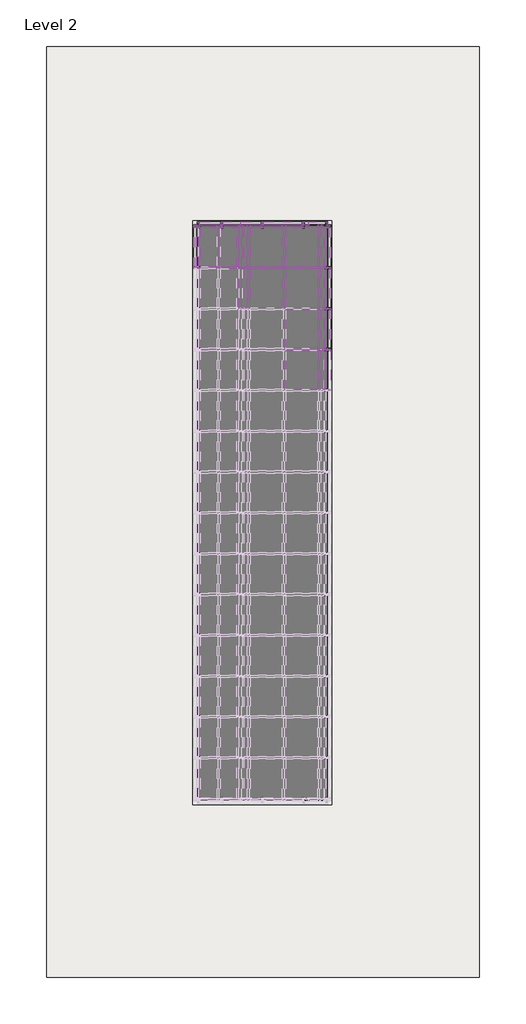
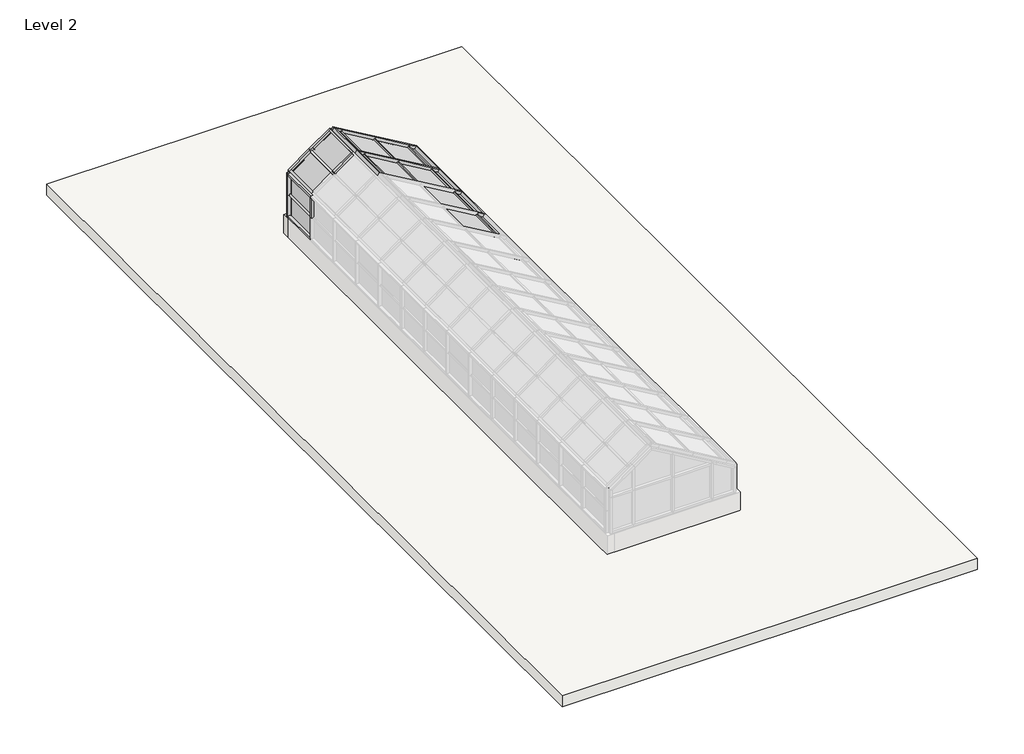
# One storey, part 5 of 5: 65 members, 28 plates, 1 proxy, 1 roof, 1 wall.
"""IFC4 building model written with IfcOpenShell, lengths in millimetres."""

from ifc_helpers import new_model, si_unit, frame, origin, place, context, project, spatial, polyline, outline, extrude, faceted_brep, transform, mapped, element, save
from components import rectangular_mullion_50mm_x_150mm_a053b0ca, rectangular_mullion_50mm_x_150mm_32254d86, rectangular_mullion_50mm_x_150mm_d223150d, rectangular_mullion_50mm_x_150mm_8a69f4a4, rectangular_mullion_50mm_x_150mm_bbc1c4ea, rectangular_mullion_50mm_x_150mm_fae529a7, rectangular_mullion_50mm_x_150mm_eeb88b28, rectangular_mullion_50mm_x_150mm_10ca3b23, rectangular_mullion_50mm_x_150mm_2678c853, rectangular_mullion_50mm_x_150mm_a76007e2, rectangular_mullion_50mm_x_150mm_ad13ef8d, rectangular_mullion_50mm_x_150mm_9f3c5d86, rectangular_mullion_50mm_x_150mm_cf8f8159, rectangular_mullion_50mm_x_150mm_4f540f7b, rectangular_mullion_50mm_x_150mm_39d84e13, rectangular_mullion_50mm_x_150mm_911f9bfa, rectangular_mullion_50mm_x_150mm_74fb06e2, rectangular_mullion_50mm_x_150mm_35f7bb67, rectangular_mullion_50mm_x_150mm_fee80ca3, rectangular_mullion_50mm_x_150mm_37271eec, rectangular_mullion_50mm_x_150mm_5dbd0429, rectangular_mullion_50mm_x_150mm_457f67df, rectangular_mullion_50mm_x_150mm_a3f7cd42, rectangular_mullion_50mm_x_150mm_b93c35cb, rectangular_mullion_50mm_x_150mm_5b0837ce, rectangular_mullion_50mm_x_150mm_ae680e05, rectangular_mullion_50mm_x_65mm_20714c67, rectangular_mullion_50mm_x_65mm_31c1307f, system_panel_glazed_7648efc2, system_panel_glazed_054ac1a6, system_panel_glazed_b73f3a15, system_panel_glazed_e5572be6, system_panel_glazed_8ed7f146, system_panel_glazed_e7d87ffb, system_panel_glazed_5a163f1a, system_panel_glazed_f6ef7fd0, system_panel_glazed_bfda2260, system_panel_glazed_06c85186, system_panel_glazed_3cc83191, system_panel_glazed_1192e014, system_panel_glazed_51a322f3, system_panel_glazed_750eec45, system_panel_glazed_9b35e2bb

model = new_model("IFC4")

# Units and contexts
model_context = context("Model", 3, world=origin())
ifc_project = project(units=[si_unit("LENGTHUNIT", "METRE", prefix="MILLI")], contexts=[model_context])

# Site, building, storey
site = spatial("IfcSite", under=ifc_project)
building = spatial("IfcBuilding", under=site)
storey = spatial("IfcBuildingStorey", under=building, Name="Level 2", Elevation=4000.0)

# Proxy
placement = place(None, origin())
element("IfcBuildingElementProxy", 1, Name="Mass 2 : Mass 2", ObjectType="Mass 2 : Mass 2", at=placement, inside=storey, context=model_context, shape_type="SweptSolid", body=[
    extrude(outline(polyline([(4800.0, 4496.0159363), (5495.9168295, 4496.0159363), (6755.9168295, 2355.6300069), (5995.9168295, 1296.0159363), (4800.0, 1296.0159363), (4800.0, 4496.0159363)])), frame((0.0, -6466.183534, 0.0), z_axis=(0.0, 1.0, 0.0), x_axis=(0.0, 0.0, 1.0)), (0.0, 0.0, 1.0), 14100.0),
])

# Members
rectangular_mullion_50mm_x_150mm_shape = rectangular_mullion_50mm_x_150mm_a053b0ca(model_context)
element("IfcMember", 2, ObjectType="Rectangular Mullion : 50mm x 150mm", at=placement, inside=storey, context=model_context, shape_type="MappedRepresentation", body=[
    mapped(rectangular_mullion_50mm_x_150mm_shape, transform((1921.0159363, 7633.816466, 5777.9584148), x_axis=(0.0, 0.0, 1.0), y_axis=(0.0, 1.0, 0.0), z_axis=(-1.0, 0.0, 0.0))),
])
element("IfcMember", 3, ObjectType="Rectangular Mullion : 50mm x 150mm", at=placement, inside=storey, context=model_context, shape_type="MappedRepresentation", body=[
    mapped(rectangular_mullion_50mm_x_150mm_shape, transform((2921.0159363, 7633.816466, 5777.9584148), x_axis=(0.0, 0.0, 1.0), y_axis=(0.0, 1.0, 0.0), z_axis=(-1.0, 0.0, 0.0))),
])
rectangular_mullion_50mm_x_150mm_2_shape = rectangular_mullion_50mm_x_150mm_32254d86(model_context)
element("IfcMember", 4, ObjectType="Rectangular Mullion : 50mm x 150mm", at=placement, inside=storey, context=model_context, shape_type="MappedRepresentation", body=[
    mapped(rectangular_mullion_50mm_x_150mm_2_shape, transform((1825.8229716, 7633.816466, 6375.9168295), x_axis=(0.0, 1.0, 0.0), y_axis=(-0.5828279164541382, 0.0, 0.8125956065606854), z_axis=(0.8125956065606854, 0.0, 0.5828279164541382))),
])
element("IfcMember", 5, ObjectType="Rectangular Mullion : 50mm x 150mm", at=placement, inside=storey, context=model_context, shape_type="MappedRepresentation", body=[
    mapped(rectangular_mullion_50mm_x_150mm_2_shape, transform((2355.6300069, 7633.816466, 6755.9168295), x_axis=(0.0, 1.0, 0.0), y_axis=(-0.5828279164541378, 0.0, 0.8125956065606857), z_axis=(0.8125956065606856, 0.0, 0.5828279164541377))),
])
rectangular_mullion_50mm_x_150mm_3_shape = rectangular_mullion_50mm_x_150mm_d223150d(model_context)
element("IfcMember", 6, ObjectType="Rectangular Mullion : 50mm x 150mm", at=placement, inside=storey, context=model_context, shape_type="MappedRepresentation", body=[
    mapped(rectangular_mullion_50mm_x_150mm_3_shape, transform((1296.0159363, 7633.816466, 5397.9584148), x_axis=(0.0, 1.0, 0.0), y_axis=(-1.0, 0.0, 0.0), z_axis=(0.0, 0.0, 1.0))),
])
element("IfcMember", 7, ObjectType="Rectangular Mullion : 50mm x 150mm", at=placement, inside=storey, context=model_context, shape_type="MappedRepresentation", body=[
    mapped(rectangular_mullion_50mm_x_150mm_3_shape, transform((1296.0159363, 7633.816466, 5995.9168295), x_axis=(0.0, 1.0, 0.0), y_axis=(-1.0, 0.0, 0.0), z_axis=(0.0, 0.0, 1.0))),
])
rectangular_mullion_50mm_x_150mm_4_shape = rectangular_mullion_50mm_x_150mm_8a69f4a4(model_context)
element("IfcMember", 8, ObjectType="Rectangular Mullion : 50mm x 150mm", at=placement, inside=storey, context=model_context, shape_type="MappedRepresentation", body=[
    mapped(rectangular_mullion_50mm_x_150mm_4_shape, transform((1346.0159363, 7633.816466, 5777.9584148), x_axis=(0.0, 0.0, 1.0), y_axis=(0.0, 1.0, 0.0), z_axis=(-1.0, 0.0, 0.0))),
])
rectangular_mullion_50mm_x_150mm_5_shape = rectangular_mullion_50mm_x_150mm_bbc1c4ea(model_context)
element("IfcMember", 9, ObjectType="Rectangular Mullion : 50mm x 150mm", at=placement, inside=storey, context=model_context, shape_type="MappedRepresentation", body=[
    mapped(rectangular_mullion_50mm_x_150mm_5_shape, transform((2564.0558626, 6583.816466, 6633.2209294), x_axis=(0.0, -1.0, 0.0), y_axis=(0.5073040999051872, 0.0, 0.8617671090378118), z_axis=(-0.8617671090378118, 0.0, 0.5073040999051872))),
])
element("IfcMember", 10, ObjectType="Rectangular Mullion : 50mm x 150mm", at=placement, inside=storey, context=model_context, shape_type="MappedRepresentation", body=[
    mapped(rectangular_mullion_50mm_x_150mm_5_shape, transform((3425.8229716, 6583.816466, 6125.9168295), x_axis=(0.0, -1.0, 0.0), y_axis=(0.5073040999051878, 0.0, 0.8617671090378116), z_axis=(-0.8617671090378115, 0.0, 0.5073040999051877))),
])
rectangular_mullion_50mm_x_150mm_6_shape = rectangular_mullion_50mm_x_150mm_fae529a7(model_context)
element("IfcMember", 11, ObjectType="Rectangular Mullion : 50mm x 150mm", at=placement, inside=storey, context=model_context, shape_type="MappedRepresentation", body=[
    mapped(rectangular_mullion_50mm_x_150mm_6_shape, transform((2564.0558626, 7633.816466, 6633.2209294), x_axis=(0.0, 1.0, 0.0), y_axis=(0.5073040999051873, 0.0, 0.8617671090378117), z_axis=(0.8617671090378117, 0.0, -0.5073040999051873))),
])
rectangular_mullion_50mm_x_150mm_7_shape = rectangular_mullion_50mm_x_150mm_eeb88b28(model_context)
element("IfcMember", 12, ObjectType="Rectangular Mullion : 50mm x 150mm", at=placement, inside=storey, context=model_context, shape_type="MappedRepresentation", body=[
    mapped(rectangular_mullion_50mm_x_150mm_7_shape, transform((4287.5900806, 7633.816466, 5618.6127296), x_axis=(0.0, 1.0, 0.0), y_axis=(0.5073040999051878, 0.0, 0.8617671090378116), z_axis=(0.8617671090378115, 0.0, -0.5073040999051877))),
])
element("IfcMember", 13, ObjectType="Rectangular Mullion : 50mm x 150mm", at=placement, inside=storey, context=model_context, shape_type="MappedRepresentation", body=[
    mapped(rectangular_mullion_50mm_x_150mm_7_shape, transform((3425.8229716, 7633.816466, 6125.9168295), x_axis=(0.0, 1.0, 0.0), y_axis=(0.507304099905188, 0.0, 0.8617671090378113), z_axis=(0.8617671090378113, 0.0, -0.507304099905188))),
])
element("IfcMember", 14, ObjectType="Rectangular Mullion : 50mm x 150mm", at=placement, inside=storey, context=model_context, shape_type="MappedRepresentation", body=[
    mapped(rectangular_mullion_50mm_x_150mm_6_shape, transform((4496.0159363, 7633.816466, 5495.9168295), x_axis=(0.0, 1.0, 0.0), y_axis=(0.5073040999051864, 0.0, 0.8617671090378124), z_axis=(0.8617671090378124, 0.0, -0.5073040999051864))),
])
rectangular_mullion_50mm_x_150mm_8_shape = rectangular_mullion_50mm_x_150mm_10ca3b23(model_context)
element("IfcMember", 15, ObjectType="Rectangular Mullion : 50mm x 150mm", at=placement, inside=storey, context=model_context, shape_type="MappedRepresentation", body=[
    mapped(rectangular_mullion_50mm_x_150mm_8_shape, transform((4496.0159363, 7633.816466, 4800.0), x_axis=(0.0, 1.0, 0.0), y_axis=(1.0, 0.0, 0.0), z_axis=(0.0, 0.0, -1.0))),
])
rectangular_mullion_50mm_x_150mm_9_shape = rectangular_mullion_50mm_x_150mm_2678c853(model_context)
element("IfcMember", 16, ObjectType="Rectangular Mullion : 50mm x 150mm", at=placement, inside=storey, context=model_context, shape_type="MappedRepresentation", body=[
    mapped(rectangular_mullion_50mm_x_150mm_9_shape, transform((1896.0159363, 7633.816466, 6426.2621908), x_axis=(1.0, 0.0, 0.0), y_axis=(0.0, 1.0, 0.0), z_axis=(0.0, 0.0, 1.0))),
])
rectangular_mullion_50mm_x_150mm_10_shape = rectangular_mullion_50mm_x_150mm_a76007e2(model_context)
element("IfcMember", 17, ObjectType="Rectangular Mullion : 50mm x 150mm", at=placement, inside=storey, context=model_context, shape_type="MappedRepresentation", body=[
    mapped(rectangular_mullion_50mm_x_150mm_10_shape, transform((2896.0159363, 7633.816466, 6437.8030437), x_axis=(1.0, 0.0, 0.0), y_axis=(0.0, 1.0, 0.0), z_axis=(0.0, 0.0, 1.0))),
])
rectangular_mullion_50mm_x_150mm_11_shape = rectangular_mullion_50mm_x_150mm_ad13ef8d(model_context)
element("IfcMember", 18, ObjectType="Rectangular Mullion : 50mm x 150mm", at=placement, inside=storey, context=model_context, shape_type="MappedRepresentation", body=[
    mapped(rectangular_mullion_50mm_x_150mm_11_shape, transform((4016.906539, 7633.816466, 5777.9584148), x_axis=(0.507304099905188, 0.0, 0.8617671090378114), y_axis=(0.0, 1.0, 0.0), z_axis=(-0.8617671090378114, 0.0, 0.507304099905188))),
])
rectangular_mullion_50mm_x_150mm_12_shape = rectangular_mullion_50mm_x_150mm_9f3c5d86(model_context)
element("IfcMember", 19, ObjectType="Rectangular Mullion : 50mm x 150mm", at=placement, inside=storey, context=model_context, shape_type="MappedRepresentation", body=[
    mapped(rectangular_mullion_50mm_x_150mm_12_shape, transform((3896.0159363, 7633.816466, 5849.1241598), x_axis=(0.5073040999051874, 0.0, 0.8617671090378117), y_axis=(0.0, 1.0, 0.0), z_axis=(-0.8617671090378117, 0.0, 0.5073040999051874))),
])
rectangular_mullion_50mm_x_150mm_13_shape = rectangular_mullion_50mm_x_150mm_cf8f8159(model_context)
element("IfcMember", 20, ObjectType="Rectangular Mullion : 50mm x 150mm", at=placement, inside=storey, context=model_context, shape_type="MappedRepresentation", body=[
    mapped(rectangular_mullion_50mm_x_150mm_13_shape, transform((2896.0159363, 7633.816466, 6437.8030437), x_axis=(0.5073040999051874, 0.0, 0.8617671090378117), y_axis=(0.0, 1.0, 0.0), z_axis=(-0.8617671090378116, 0.0, 0.5073040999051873))),
])
rectangular_mullion_50mm_x_150mm_14_shape = rectangular_mullion_50mm_x_150mm_4f540f7b(model_context)
element("IfcMember", 21, ObjectType="Rectangular Mullion : 50mm x 150mm", at=placement, inside=storey, context=model_context, shape_type="MappedRepresentation", body=[
    mapped(rectangular_mullion_50mm_x_150mm_14_shape, transform((1896.0159363, 7633.816466, 6426.2621908), x_axis=(-0.5828279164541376, 0.0, 0.8125956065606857), y_axis=(0.0, 1.0, 0.0), z_axis=(-0.8125956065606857, 0.0, -0.5828279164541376))),
])
rectangular_mullion_50mm_x_150mm_15_shape = rectangular_mullion_50mm_x_150mm_39d84e13(model_context)
element("IfcMember", 22, ObjectType="Rectangular Mullion : 50mm x 150mm", at=placement, inside=storey, context=model_context, shape_type="MappedRepresentation", body=[
    mapped(rectangular_mullion_50mm_x_150mm_15_shape, transform((1296.0159363, 7633.816466, 5777.9584148), x_axis=(-1.0, 0.0, 0.0), y_axis=(0.0, 1.0, 0.0), z_axis=(0.0, 0.0, -1.0))),
])
rectangular_mullion_50mm_x_150mm_16_shape = rectangular_mullion_50mm_x_150mm_911f9bfa(model_context)
element("IfcMember", 23, ObjectType="Rectangular Mullion : 50mm x 150mm", at=placement, inside=storey, context=model_context, shape_type="MappedRepresentation", body=[
    mapped(rectangular_mullion_50mm_x_150mm_16_shape, transform((2355.6300069, 7633.816466, 6755.9168295), x_axis=(0.507304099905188, 0.0, 0.8617671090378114), y_axis=(0.0, 1.0, 0.0), z_axis=(-0.8617671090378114, 0.0, 0.507304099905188))),
])
rectangular_mullion_50mm_x_150mm_17_shape = rectangular_mullion_50mm_x_150mm_74fb06e2(model_context)
element("IfcMember", 24, ObjectType="Rectangular Mullion : 50mm x 150mm", at=placement, inside=storey, context=model_context, shape_type="MappedRepresentation", body=[
    mapped(rectangular_mullion_50mm_x_150mm_17_shape, transform((1296.0159363, 7633.816466, 5995.9168295), x_axis=(-0.5828279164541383, 0.0, 0.8125956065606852), y_axis=(0.0, 1.0, 0.0), z_axis=(-0.8125956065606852, 0.0, -0.5828279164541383))),
])
rectangular_mullion_50mm_x_150mm_18_shape = rectangular_mullion_50mm_x_150mm_35f7bb67(model_context)
element("IfcMember", 25, ObjectType="Rectangular Mullion : 50mm x 150mm", at=placement, inside=storey, context=model_context, shape_type="MappedRepresentation", body=[
    mapped(rectangular_mullion_50mm_x_150mm_18_shape, transform((1296.0159363, 7633.816466, 4800.0), x_axis=(-1.0, 0.0, 0.0), y_axis=(0.0, 1.0, 0.0), z_axis=(0.0, 0.0, -1.0))),
])
rectangular_mullion_50mm_x_150mm_19_shape = rectangular_mullion_50mm_x_150mm_fee80ca3(model_context)
element("IfcMember", 26, ObjectType="Rectangular Mullion : 50mm x 150mm", at=placement, inside=storey, context=model_context, shape_type="MappedRepresentation", body=[
    mapped(rectangular_mullion_50mm_x_150mm_19_shape, transform((4496.0159363, 7633.816466, 5495.9168295), x_axis=(1.0, 0.0, 0.0), y_axis=(0.0, 1.0, 0.0), z_axis=(0.0, 0.0, 1.0))),
])
element("IfcMember", 27, ObjectType="Rectangular Mullion : 50mm x 150mm", at=placement, inside=storey, context=model_context, shape_type="MappedRepresentation", body=[
    mapped(rectangular_mullion_50mm_x_150mm_7_shape, transform((4496.0159363, 5583.816466, 5495.9168295), x_axis=(0.8617671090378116, 0.0, -0.5073040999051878), y_axis=(0.5073040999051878, 0.0, 0.8617671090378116), z_axis=(0.0, -1.0, 0.0))),
])
element("IfcMember", 28, ObjectType="Rectangular Mullion : 50mm x 150mm", at=placement, inside=storey, context=model_context, shape_type="MappedRepresentation", body=[
    mapped(rectangular_mullion_50mm_x_150mm_7_shape, transform((4496.0159363, 4583.816466, 5495.9168295), x_axis=(0.8617671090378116, 0.0, -0.5073040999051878), y_axis=(0.5073040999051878, 0.0, 0.8617671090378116), z_axis=(0.0, -1.0, 0.0))),
])
element("IfcMember", 29, ObjectType="Rectangular Mullion : 50mm x 150mm", at=placement, inside=storey, context=model_context, shape_type="MappedRepresentation", body=[
    mapped(rectangular_mullion_50mm_x_150mm_7_shape, transform((4496.0159363, 4583.816466, 4800.0), x_axis=(0.0, 0.0, -1.0), y_axis=(1.0, 0.0, 0.0), z_axis=(0.0, -1.0, 0.0))),
])
element("IfcMember", 30, ObjectType="Rectangular Mullion : 50mm x 150mm", at=placement, inside=storey, context=model_context, shape_type="MappedRepresentation", body=[
    mapped(rectangular_mullion_50mm_x_150mm_7_shape, transform((4496.0159363, 5583.816466, 4800.0), x_axis=(0.0, 0.0, -1.0), y_axis=(1.0, 0.0, 0.0), z_axis=(0.0, -1.0, 0.0))),
])
element("IfcMember", 31, ObjectType="Rectangular Mullion : 50mm x 150mm", at=placement, inside=storey, context=model_context, shape_type="MappedRepresentation", body=[
    mapped(rectangular_mullion_50mm_x_150mm_7_shape, transform((3896.0159363, 7633.816466, 4800.0), x_axis=(0.0, 0.0, -1.0), y_axis=(0.0, 1.0, 0.0), z_axis=(1.0, 0.0, 0.0))),
])
element("IfcMember", 32, ObjectType="Rectangular Mullion : 50mm x 150mm", at=placement, inside=storey, context=model_context, shape_type="MappedRepresentation", body=[
    mapped(rectangular_mullion_50mm_x_150mm_7_shape, transform((2896.0159363, 7633.816466, 4800.0), x_axis=(0.0, 0.0, -1.0), y_axis=(0.0, 1.0, 0.0), z_axis=(1.0, 0.0, 0.0))),
])
rectangular_mullion_50mm_x_150mm_20_shape = rectangular_mullion_50mm_x_150mm_37271eec(model_context)
element("IfcMember", 33, ObjectType="Rectangular Mullion : 50mm x 150mm", at=placement, inside=storey, context=model_context, shape_type="MappedRepresentation", body=[
    mapped(rectangular_mullion_50mm_x_150mm_20_shape, transform((3896.0159363, 7633.816466, 5802.9584148), x_axis=(1.0, 0.0, 0.0), y_axis=(0.0, 1.0, 0.0), z_axis=(0.0, 0.0, 1.0))),
])
rectangular_mullion_50mm_x_150mm_21_shape = rectangular_mullion_50mm_x_150mm_5dbd0429(model_context)
element("IfcMember", 34, ObjectType="Rectangular Mullion : 50mm x 150mm", at=placement, inside=storey, context=model_context, shape_type="MappedRepresentation", body=[
    mapped(rectangular_mullion_50mm_x_150mm_21_shape, transform((1896.0159363, 7633.816466, 4800.0), x_axis=(0.0, 0.0, -1.0), y_axis=(0.0, 1.0, 0.0), z_axis=(1.0, 0.0, 0.0))),
])
rectangular_mullion_50mm_x_150mm_22_shape = rectangular_mullion_50mm_x_150mm_457f67df(model_context)
element("IfcMember", 35, ObjectType="Rectangular Mullion : 50mm x 150mm", at=placement, inside=storey, context=model_context, shape_type="MappedRepresentation", body=[
    mapped(rectangular_mullion_50mm_x_150mm_22_shape, transform((2896.0159363, 7633.816466, 5777.9584148), x_axis=(1.0, 0.0, 0.0), y_axis=(0.0, 1.0, 0.0), z_axis=(0.0, 0.0, 1.0))),
])
element("IfcMember", 36, ObjectType="Rectangular Mullion : 50mm x 150mm", at=placement, inside=storey, context=model_context, shape_type="MappedRepresentation", body=[
    mapped(rectangular_mullion_50mm_x_150mm_22_shape, transform((1896.0159363, 7633.816466, 5777.9584148), x_axis=(1.0, 0.0, 0.0), y_axis=(0.0, 1.0, 0.0), z_axis=(0.0, 0.0, 1.0))),
])
element("IfcMember", 37, ObjectType="Rectangular Mullion : 50mm x 150mm", at=placement, inside=storey, context=model_context, shape_type="MappedRepresentation", body=[
    mapped(rectangular_mullion_50mm_x_150mm_21_shape, transform((4446.0159363, 7633.816466, 4800.0), x_axis=(0.0, 0.0, -1.0), y_axis=(0.0, 1.0, 0.0), z_axis=(1.0, 0.0, 0.0))),
])
element("IfcMember", 38, ObjectType="Rectangular Mullion : 50mm x 150mm", at=placement, inside=storey, context=model_context, shape_type="MappedRepresentation", body=[
    mapped(rectangular_mullion_50mm_x_150mm_7_shape, transform((2355.6300069, 6583.816466, 6755.9168295), x_axis=(-0.8617671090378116, 0.0, 0.5073040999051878), y_axis=(0.5073040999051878, 0.0, 0.8617671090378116), z_axis=(0.0, 1.0, 0.0))),
])
element("IfcMember", 39, ObjectType="Rectangular Mullion : 50mm x 150mm", at=placement, inside=storey, context=model_context, shape_type="MappedRepresentation", body=[
    mapped(rectangular_mullion_50mm_x_150mm_7_shape, transform((4496.0159363, 4583.816466, 5495.9168295), x_axis=(0.0, 0.0, 1.0), y_axis=(1.0, 0.0, 0.0), z_axis=(0.0, 1.0, 0.0))),
])
element("IfcMember", 40, ObjectType="Rectangular Mullion : 50mm x 150mm", at=placement, inside=storey, context=model_context, shape_type="MappedRepresentation", body=[
    mapped(rectangular_mullion_50mm_x_150mm_7_shape, transform((4496.0159363, 5583.816466, 5495.9168295), x_axis=(0.0, 0.0, 1.0), y_axis=(1.0, 0.0, 0.0), z_axis=(0.0, 1.0, 0.0))),
])
element("IfcMember", 41, ObjectType="Rectangular Mullion : 50mm x 150mm", at=placement, inside=storey, context=model_context, shape_type="MappedRepresentation", body=[
    mapped(rectangular_mullion_50mm_x_150mm_7_shape, transform((4496.0159363, 6583.816466, 5495.9168295), x_axis=(0.0, 0.0, 1.0), y_axis=(1.0, 0.0, 0.0), z_axis=(0.0, 1.0, 0.0))),
])
rectangular_mullion_50mm_x_150mm_23_shape = rectangular_mullion_50mm_x_150mm_a3f7cd42(model_context)
element("IfcMember", 42, ObjectType="Rectangular Mullion : 50mm x 150mm", at=placement, inside=storey, context=model_context, shape_type="MappedRepresentation", body=[
    mapped(rectangular_mullion_50mm_x_150mm_23_shape, transform((2315.0002265, 6583.816466, 6726.7754337), x_axis=(0.0, 1.0, 0.0), y_axis=(-0.5828279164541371, 0.0, 0.8125956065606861), z_axis=(0.8125956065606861, 0.0, 0.5828279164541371))),
])
rectangular_mullion_50mm_x_150mm_24_shape = rectangular_mullion_50mm_x_150mm_b93c35cb(model_context)
element("IfcMember", 43, ObjectType="Rectangular Mullion : 50mm x 150mm", at=placement, inside=storey, context=model_context, shape_type="MappedRepresentation", body=[
    mapped(rectangular_mullion_50mm_x_150mm_24_shape, transform((1296.0159363, 6583.816466, 5945.9168295), x_axis=(0.0, 1.0, 0.0), y_axis=(-1.0, 0.0, 0.0), z_axis=(0.0, 0.0, 1.0))),
])
rectangular_mullion_50mm_x_150mm_25_shape = rectangular_mullion_50mm_x_150mm_5b0837ce(model_context)
element("IfcMember", 44, ObjectType="Rectangular Mullion : 50mm x 150mm", at=placement, inside=storey, context=model_context, shape_type="MappedRepresentation", body=[
    mapped(rectangular_mullion_50mm_x_150mm_25_shape, transform((2398.7183623, 6583.816466, 6730.5516245), x_axis=(0.0, -1.0, 0.0), y_axis=(0.5073040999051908, 0.0, 0.8617671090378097), z_axis=(-0.8617671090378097, 0.0, 0.5073040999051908))),
])
element("IfcMember", 45, ObjectType="Rectangular Mullion : 50mm x 150mm", at=placement, inside=storey, context=model_context, shape_type="MappedRepresentation", body=[
    mapped(rectangular_mullion_50mm_x_150mm_25_shape, transform((4287.5900806, 6583.816466, 5618.6127296), x_axis=(0.0, -1.0, 0.0), y_axis=(0.5073040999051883, 0.0, 0.8617671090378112), z_axis=(-0.8617671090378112, 0.0, 0.5073040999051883))),
])
element("IfcMember", 46, ObjectType="Rectangular Mullion : 50mm x 150mm", at=placement, inside=storey, context=model_context, shape_type="MappedRepresentation", body=[
    mapped(rectangular_mullion_50mm_x_150mm_25_shape, transform((4287.5900806, 4583.816466, 5618.6127296), x_axis=(0.0, -1.0, 0.0), y_axis=(0.5073040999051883, 0.0, 0.8617671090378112), z_axis=(-0.8617671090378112, 0.0, 0.5073040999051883))),
])
element("IfcMember", 47, ObjectType="Rectangular Mullion : 50mm x 150mm", at=placement, inside=storey, context=model_context, shape_type="MappedRepresentation", body=[
    mapped(rectangular_mullion_50mm_x_150mm_25_shape, transform((4287.5900806, 5583.816466, 5618.6127296), x_axis=(0.0, -1.0, 0.0), y_axis=(0.5073040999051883, 0.0, 0.8617671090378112), z_axis=(-0.8617671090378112, 0.0, 0.5073040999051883))),
])
rectangular_mullion_50mm_x_150mm_26_shape = rectangular_mullion_50mm_x_150mm_ae680e05(model_context)
element("IfcMember", 48, ObjectType="Rectangular Mullion : 50mm x 150mm", at=placement, inside=storey, context=model_context, shape_type="MappedRepresentation", body=[
    mapped(rectangular_mullion_50mm_x_150mm_26_shape, transform((4496.0159363, 6583.816466, 5445.9168295), x_axis=(0.0, -1.0, 0.0), y_axis=(1.0, 0.0, 0.0), z_axis=(0.0, 0.0, 1.0))),
])
element("IfcMember", 49, ObjectType="Rectangular Mullion : 50mm x 150mm", at=placement, inside=storey, context=model_context, shape_type="MappedRepresentation", body=[
    mapped(rectangular_mullion_50mm_x_150mm_26_shape, transform((4496.0159363, 5583.816466, 5445.9168295), x_axis=(0.0, -1.0, 0.0), y_axis=(1.0, 0.0, 0.0), z_axis=(0.0, 0.0, 1.0))),
])
element("IfcMember", 50, ObjectType="Rectangular Mullion : 50mm x 150mm", at=placement, inside=storey, context=model_context, shape_type="MappedRepresentation", body=[
    mapped(rectangular_mullion_50mm_x_150mm_26_shape, transform((4496.0159363, 4583.816466, 5445.9168295), x_axis=(0.0, -1.0, 0.0), y_axis=(1.0, 0.0, 0.0), z_axis=(0.0, 0.0, 1.0))),
])
element("IfcMember", 51, ObjectType="Rectangular Mullion : 50mm x 150mm", at=placement, inside=storey, context=model_context, shape_type="MappedRepresentation", body=[
    mapped(rectangular_mullion_50mm_x_150mm_7_shape, transform((4496.0159363, 6583.816466, 5495.9168295), x_axis=(0.8617671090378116, 0.0, -0.5073040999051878), y_axis=(0.5073040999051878, 0.0, 0.8617671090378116), z_axis=(0.0, -1.0, 0.0))),
])
element("IfcMember", 52, ObjectType="Rectangular Mullion : 50mm x 150mm", at=placement, inside=storey, context=model_context, shape_type="MappedRepresentation", body=[
    mapped(rectangular_mullion_50mm_x_150mm_7_shape, transform((4496.0159363, 6583.816466, 4800.0), x_axis=(0.0, 0.0, -1.0), y_axis=(1.0, 0.0, 0.0), z_axis=(0.0, -1.0, 0.0))),
])
element("IfcMember", 53, ObjectType="Rectangular Mullion : 50mm x 150mm", at=placement, inside=storey, context=model_context, shape_type="MappedRepresentation", body=[
    mapped(rectangular_mullion_50mm_x_150mm_7_shape, transform((2355.6300069, 7583.816466, 6755.9168295), x_axis=(-0.8617671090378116, 0.0, 0.5073040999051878), y_axis=(0.5073040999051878, 0.0, 0.8617671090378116), z_axis=(0.0, 1.0, 0.0))),
])
element("IfcMember", 54, ObjectType="Rectangular Mullion : 50mm x 150mm", at=placement, inside=storey, context=model_context, shape_type="MappedRepresentation", body=[
    mapped(rectangular_mullion_50mm_x_150mm_7_shape, transform((4496.0159363, 7583.816466, 5495.9168295), x_axis=(0.0, 0.0, 1.0), y_axis=(1.0, 0.0, 0.0), z_axis=(0.0, 1.0, 0.0))),
])
element("IfcMember", 55, ObjectType="Rectangular Mullion : 50mm x 150mm", at=placement, inside=storey, context=model_context, shape_type="MappedRepresentation", body=[
    mapped(rectangular_mullion_50mm_x_150mm_7_shape, transform((2355.6300069, 6583.816466, 6755.9168295), x_axis=(0.8125956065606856, 0.0, 0.5828279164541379), y_axis=(-0.5828279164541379, 0.0, 0.8125956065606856), z_axis=(0.0, -1.0, 0.0))),
])
element("IfcMember", 56, ObjectType="Rectangular Mullion : 50mm x 150mm", at=placement, inside=storey, context=model_context, shape_type="MappedRepresentation", body=[
    mapped(rectangular_mullion_50mm_x_150mm_7_shape, transform((1296.0159363, 6583.816466, 5995.9168295), x_axis=(0.0, 0.0, 1.0), y_axis=(-1.0, 0.0, 0.0), z_axis=(0.0, -1.0, 0.0))),
])
element("IfcMember", 57, ObjectType="Rectangular Mullion : 50mm x 150mm", at=placement, inside=storey, context=model_context, shape_type="MappedRepresentation", body=[
    mapped(rectangular_mullion_50mm_x_150mm_7_shape, transform((1296.0159363, 7583.816466, 5995.9168295), x_axis=(-0.8125956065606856, 0.0, -0.5828279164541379), y_axis=(-0.5828279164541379, 0.0, 0.8125956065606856), z_axis=(0.0, 1.0, 0.0))),
])
element("IfcMember", 58, ObjectType="Rectangular Mullion : 50mm x 150mm", at=placement, inside=storey, context=model_context, shape_type="MappedRepresentation", body=[
    mapped(rectangular_mullion_50mm_x_150mm_7_shape, transform((1296.0159363, 7583.816466, 4800.0), x_axis=(0.0, 0.0, -1.0), y_axis=(-1.0, 0.0, 0.0), z_axis=(0.0, 1.0, 0.0))),
])
rectangular_mullion_50mm_x_65mm_shape = rectangular_mullion_50mm_x_65mm_20714c67(model_context)
element("IfcMember", 59, ObjectType="Rectangular Mullion : 50mm x 65mm", at=placement, inside=storey, context=model_context, shape_type="MappedRepresentation", body=[
    mapped(rectangular_mullion_50mm_x_65mm_shape, transform((2564.0558626, 7583.816466, 6633.2209294), x_axis=(-0.8617671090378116, 0.0, 0.5073040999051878), y_axis=(0.5073040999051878, 0.0, 0.8617671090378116), z_axis=(0.0, 1.0, 0.0))),
])
element("IfcMember", 60, ObjectType="Rectangular Mullion : 50mm x 65mm", at=placement, inside=storey, context=model_context, shape_type="MappedRepresentation", body=[
    mapped(rectangular_mullion_50mm_x_65mm_shape, transform((3425.8229716, 7583.816466, 6125.9168295), x_axis=(-0.8617671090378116, 0.0, 0.5073040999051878), y_axis=(0.5073040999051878, 0.0, 0.8617671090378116), z_axis=(0.0, 1.0, 0.0))),
])
element("IfcMember", 61, ObjectType="Rectangular Mullion : 50mm x 65mm", at=placement, inside=storey, context=model_context, shape_type="MappedRepresentation", body=[
    mapped(rectangular_mullion_50mm_x_65mm_shape, transform((4287.5900806, 7583.816466, 5618.6127296), x_axis=(-0.8617671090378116, 0.0, 0.5073040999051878), y_axis=(0.5073040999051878, 0.0, 0.8617671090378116), z_axis=(0.0, 1.0, 0.0))),
])
rectangular_mullion_50mm_x_65mm_2_shape = rectangular_mullion_50mm_x_65mm_31c1307f(model_context)
element("IfcMember", 62, ObjectType="Rectangular Mullion : 50mm x 65mm", at=placement, inside=storey, context=model_context, shape_type="MappedRepresentation", body=[
    mapped(rectangular_mullion_50mm_x_65mm_2_shape, transform((2564.0558626, 6558.816466, 6633.2209294), x_axis=(-0.8617671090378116, 0.0, 0.5073040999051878), y_axis=(0.5073040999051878, 0.0, 0.8617671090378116), z_axis=(0.0, 1.0, 0.0))),
])
element("IfcMember", 63, ObjectType="Rectangular Mullion : 50mm x 65mm", at=placement, inside=storey, context=model_context, shape_type="MappedRepresentation", body=[
    mapped(rectangular_mullion_50mm_x_65mm_2_shape, transform((3425.8229716, 6558.816466, 6125.9168295), x_axis=(-0.8617671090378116, 0.0, 0.5073040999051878), y_axis=(0.5073040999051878, 0.0, 0.8617671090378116), z_axis=(0.0, 1.0, 0.0))),
])
element("IfcMember", 64, ObjectType="Rectangular Mullion : 50mm x 65mm", at=placement, inside=storey, context=model_context, shape_type="MappedRepresentation", body=[
    mapped(rectangular_mullion_50mm_x_65mm_2_shape, transform((4287.5900806, 6558.816466, 5618.6127296), x_axis=(-0.8617671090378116, 0.0, 0.5073040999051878), y_axis=(0.5073040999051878, 0.0, 0.8617671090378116), z_axis=(0.0, 1.0, 0.0))),
])
element("IfcMember", 65, ObjectType="Rectangular Mullion : 50mm x 65mm", at=placement, inside=storey, context=model_context, shape_type="MappedRepresentation", body=[
    mapped(rectangular_mullion_50mm_x_65mm_2_shape, transform((4287.5900806, 5558.816466, 5618.6127296), x_axis=(-0.8617671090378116, 0.0, 0.5073040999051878), y_axis=(0.5073040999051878, 0.0, 0.8617671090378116), z_axis=(0.0, 1.0, 0.0))),
])
element("IfcMember", 66, ObjectType="Rectangular Mullion : 50mm x 65mm", at=placement, inside=storey, context=model_context, shape_type="MappedRepresentation", body=[
    mapped(rectangular_mullion_50mm_x_65mm_2_shape, transform((4287.5900806, 4558.816466, 5618.6127296), x_axis=(-0.8617671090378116, 0.0, 0.5073040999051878), y_axis=(0.5073040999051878, 0.0, 0.8617671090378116), z_axis=(0.0, 1.0, 0.0))),
])

# Plates
system_panel_glazed_shape = system_panel_glazed_7648efc2(model_context)
element("IfcPlate", 67, ObjectType="System Panel : Glazed", at=placement, inside=storey, context=model_context, shape_type="MappedRepresentation", body=[
    mapped(system_panel_glazed_shape, transform((3396.0159363, 7633.816466, 4850.0), x_axis=(1.0, 0.0, 0.0), y_axis=(0.0, 1.0, 0.0), z_axis=(0.0, 0.0, 1.0))),
])
element("IfcPlate", 68, ObjectType="System Panel : Glazed", at=placement, inside=storey, context=model_context, shape_type="MappedRepresentation", body=[
    mapped(system_panel_glazed_shape, transform((2396.0159363, 7633.816466, 4850.0), x_axis=(1.0, 0.0, 0.0), y_axis=(0.0, 1.0, 0.0), z_axis=(0.0, 0.0, 1.0))),
])
system_panel_glazed_2_shape = system_panel_glazed_054ac1a6(model_context)
element("IfcPlate", 69, ObjectType="System Panel : Glazed", at=placement, inside=storey, context=model_context, shape_type="MappedRepresentation", body=[
    mapped(system_panel_glazed_2_shape, transform((1608.5159363, 7633.816466, 4850.0), x_axis=(1.0, 0.0, 0.0), y_axis=(0.0, 1.0, 0.0), z_axis=(0.0, 0.0, 1.0))),
])
system_panel_glazed_3_shape = system_panel_glazed_b73f3a15(model_context)
element("IfcPlate", 70, ObjectType="System Panel : Glazed", at=placement, inside=storey, context=model_context, shape_type="MappedRepresentation", body=[
    mapped(system_panel_glazed_3_shape, transform((4452.9275809, 4083.816466, 5521.2820345), x_axis=(0.0, -1.0, 0.0), y_axis=(0.5073040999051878, 0.0, 0.8617671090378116), z_axis=(-0.8617671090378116, 0.0, 0.5073040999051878))),
])
element("IfcPlate", 71, ObjectType="System Panel : Glazed", at=placement, inside=storey, context=model_context, shape_type="MappedRepresentation", body=[
    mapped(system_panel_glazed_3_shape, transform((4452.9275809, 5083.816466, 5521.2820345), x_axis=(0.0, -1.0, 0.0), y_axis=(0.5073040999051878, 0.0, 0.8617671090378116), z_axis=(-0.8617671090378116, 0.0, 0.5073040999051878))),
])
element("IfcPlate", 72, ObjectType="System Panel : Glazed", at=placement, inside=storey, context=model_context, shape_type="MappedRepresentation", body=[
    mapped(system_panel_glazed_3_shape, transform((4452.9275809, 6083.816466, 5521.2820345), x_axis=(0.0, -1.0, 0.0), y_axis=(0.5073040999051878, 0.0, 0.8617671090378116), z_axis=(-0.8617671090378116, 0.0, 0.5073040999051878))),
])
element("IfcPlate", 73, ObjectType="System Panel : Glazed", at=placement, inside=storey, context=model_context, shape_type="MappedRepresentation", body=[
    mapped(system_panel_glazed_3_shape, transform((2542.5116848, 6083.816466, 6645.9035319), x_axis=(0.0, -1.0, 0.0), y_axis=(0.5073040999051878, 0.0, 0.8617671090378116), z_axis=(-0.8617671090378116, 0.0, 0.5073040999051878))),
])
system_panel_glazed_4_shape = system_panel_glazed_e5572be6(model_context)
element("IfcPlate", 74, ObjectType="System Panel : Glazed", at=placement, inside=storey, context=model_context, shape_type="MappedRepresentation", body=[
    mapped(system_panel_glazed_4_shape, transform((3404.2787939, 6083.816466, 6138.599432), x_axis=(0.0, -1.0, 0.0), y_axis=(0.5073040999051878, 0.0, 0.8617671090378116), z_axis=(-0.8617671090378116, 0.0, 0.5073040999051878))),
])
element("IfcPlate", 75, ObjectType="System Panel : Glazed", at=placement, inside=storey, context=model_context, shape_type="MappedRepresentation", body=[
    mapped(system_panel_glazed_4_shape, transform((4266.0459029, 6083.816466, 5631.2953321), x_axis=(0.0, -1.0, 0.0), y_axis=(0.5073040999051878, 0.0, 0.8617671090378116), z_axis=(-0.8617671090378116, 0.0, 0.5073040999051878))),
])
element("IfcPlate", 76, ObjectType="System Panel : Glazed", at=placement, inside=storey, context=model_context, shape_type="MappedRepresentation", body=[
    mapped(system_panel_glazed_4_shape, transform((4266.0459029, 5083.816466, 5631.2953321), x_axis=(0.0, -1.0, 0.0), y_axis=(0.5073040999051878, 0.0, 0.8617671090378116), z_axis=(-0.8617671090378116, 0.0, 0.5073040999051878))),
])
element("IfcPlate", 77, ObjectType="System Panel : Glazed", at=placement, inside=storey, context=model_context, shape_type="MappedRepresentation", body=[
    mapped(system_panel_glazed_4_shape, transform((4266.0459029, 4083.816466, 5631.2953321), x_axis=(0.0, -1.0, 0.0), y_axis=(0.5073040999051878, 0.0, 0.8617671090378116), z_axis=(-0.8617671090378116, 0.0, 0.5073040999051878))),
])
system_panel_glazed_5_shape = system_panel_glazed_8ed7f146(model_context)
element("IfcPlate", 78, ObjectType="System Panel : Glazed", at=placement, inside=storey, context=model_context, shape_type="MappedRepresentation", body=[
    mapped(system_panel_glazed_5_shape, transform((4496.0159363, 4083.816466, 4850.0), x_axis=(0.0, -1.0, 0.0), y_axis=(1.0, 0.0, 0.0), z_axis=(0.0, 0.0, 1.0))),
])
element("IfcPlate", 79, ObjectType="System Panel : Glazed", at=placement, inside=storey, context=model_context, shape_type="MappedRepresentation", body=[
    mapped(system_panel_glazed_5_shape, transform((4496.0159363, 5083.816466, 4850.0), x_axis=(0.0, -1.0, 0.0), y_axis=(1.0, 0.0, 0.0), z_axis=(0.0, 0.0, 1.0))),
])
element("IfcPlate", 80, ObjectType="System Panel : Glazed", at=placement, inside=storey, context=model_context, shape_type="MappedRepresentation", body=[
    mapped(system_panel_glazed_5_shape, transform((4496.0159363, 6083.816466, 4850.0), x_axis=(0.0, -1.0, 0.0), y_axis=(1.0, 0.0, 0.0), z_axis=(0.0, 0.0, 1.0))),
])
system_panel_glazed_6_shape = system_panel_glazed_e7d87ffb(model_context)
element("IfcPlate", 81, ObjectType="System Panel : Glazed", at=placement, inside=storey, context=model_context, shape_type="MappedRepresentation", body=[
    mapped(system_panel_glazed_6_shape, transform((1608.5159363, 7633.816466, 5802.9584148), x_axis=(1.0, 0.0, 0.0), y_axis=(0.0, 1.0, 0.0), z_axis=(0.0, 0.0, 1.0))),
])
system_panel_glazed_7_shape = system_panel_glazed_5a163f1a(model_context)
element("IfcPlate", 82, ObjectType="System Panel : Glazed", at=placement, inside=storey, context=model_context, shape_type="MappedRepresentation", body=[
    mapped(system_panel_glazed_7_shape, transform((2396.0159363, 7633.816466, 5802.9584148), x_axis=(1.0, 0.0, 0.0), y_axis=(0.0, 1.0, 0.0), z_axis=(0.0, 0.0, 1.0))),
])
system_panel_glazed_8_shape = system_panel_glazed_f6ef7fd0(model_context)
element("IfcPlate", 83, ObjectType="System Panel : Glazed", at=placement, inside=storey, context=model_context, shape_type="MappedRepresentation", body=[
    mapped(system_panel_glazed_8_shape, transform((4183.5159363, 7633.816466, 4850.0), x_axis=(1.0, 0.0, 0.0), y_axis=(0.0, 1.0, 0.0), z_axis=(0.0, 0.0, 1.0))),
])
system_panel_glazed_9_shape = system_panel_glazed_bfda2260(model_context)
element("IfcPlate", 84, ObjectType="System Panel : Glazed", at=placement, inside=storey, context=model_context, shape_type="MappedRepresentation", body=[
    mapped(system_panel_glazed_9_shape, transform((3408.5159363, 7633.816466, 5802.9584148), x_axis=(1.0, 0.0, 0.0), y_axis=(0.0, 1.0, 0.0), z_axis=(0.0, 0.0, 1.0))),
])
system_panel_glazed_10_shape = system_panel_glazed_06c85186(model_context)
element("IfcPlate", 85, ObjectType="System Panel : Glazed", at=placement, inside=storey, context=model_context, shape_type="MappedRepresentation", body=[
    mapped(system_panel_glazed_10_shape, transform((3907.1811313, 7633.816466, 5777.9584148), x_axis=(1.0, 0.0, 0.0), y_axis=(0.0, 1.0, 0.0), z_axis=(0.0, 0.0, 1.0))),
])
system_panel_glazed_11_shape = system_panel_glazed_3cc83191(model_context)
element("IfcPlate", 86, ObjectType="System Panel : Glazed", at=placement, inside=storey, context=model_context, shape_type="MappedRepresentation", body=[
    mapped(system_panel_glazed_11_shape, transform((4496.0159363, 7096.316466, 4850.0), x_axis=(0.0, -1.0, 0.0), y_axis=(1.0, 0.0, 0.0), z_axis=(0.0, 0.0, 1.0))),
])
system_panel_glazed_12_shape = system_panel_glazed_1192e014(model_context)
element("IfcPlate", 87, ObjectType="System Panel : Glazed", at=placement, inside=storey, context=model_context, shape_type="MappedRepresentation", body=[
    mapped(system_panel_glazed_12_shape, transform((4452.9275809, 7096.316466, 5521.2820345), x_axis=(0.0, -1.0, 0.0), y_axis=(0.5073040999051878, 0.0, 0.8617671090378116), z_axis=(-0.8617671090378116, 0.0, 0.5073040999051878))),
])
element("IfcPlate", 88, ObjectType="System Panel : Glazed", at=placement, inside=storey, context=model_context, shape_type="MappedRepresentation", body=[
    mapped(system_panel_glazed_12_shape, transform((2542.5116848, 7096.316466, 6645.9035319), x_axis=(0.0, -1.0, 0.0), y_axis=(0.5073040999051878, 0.0, 0.8617671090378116), z_axis=(-0.8617671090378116, 0.0, 0.5073040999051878))),
])
system_panel_glazed_13_shape = system_panel_glazed_51a322f3(model_context)
element("IfcPlate", 89, ObjectType="System Panel : Glazed", at=placement, inside=storey, context=model_context, shape_type="MappedRepresentation", body=[
    mapped(system_panel_glazed_13_shape, transform((3404.2787939, 7096.316466, 6138.599432), x_axis=(0.0, -1.0, 0.0), y_axis=(0.5073040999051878, 0.0, 0.8617671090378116), z_axis=(-0.8617671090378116, 0.0, 0.5073040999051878))),
])
element("IfcPlate", 90, ObjectType="System Panel : Glazed", at=placement, inside=storey, context=model_context, shape_type="MappedRepresentation", body=[
    mapped(system_panel_glazed_13_shape, transform((4266.0459029, 7096.316466, 5631.2953321), x_axis=(0.0, -1.0, 0.0), y_axis=(0.5073040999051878, 0.0, 0.8617671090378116), z_axis=(-0.8617671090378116, 0.0, 0.5073040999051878))),
])
system_panel_glazed_14_shape = system_panel_glazed_750eec45(model_context)
element("IfcPlate", 91, ObjectType="System Panel : Glazed", at=placement, inside=storey, context=model_context, shape_type="MappedRepresentation", body=[
    mapped(system_panel_glazed_14_shape, transform((1336.6457166, 7096.316466, 6025.0582253), x_axis=(0.0, 1.0, 0.0), y_axis=(-0.5828279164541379, 0.0, 0.8125956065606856), z_axis=(0.8125956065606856, 0.0, 0.5828279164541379))),
])
element("IfcPlate", 92, ObjectType="System Panel : Glazed", at=placement, inside=storey, context=model_context, shape_type="MappedRepresentation", body=[
    mapped(system_panel_glazed_14_shape, transform((1846.1378618, 7096.316466, 6390.4875274), x_axis=(0.0, 1.0, 0.0), y_axis=(-0.5828279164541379, 0.0, 0.8125956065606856), z_axis=(0.8125956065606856, 0.0, 0.5828279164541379))),
])
system_panel_glazed_15_shape = system_panel_glazed_9b35e2bb(model_context)
element("IfcPlate", 93, ObjectType="System Panel : Glazed", at=placement, inside=storey, context=model_context, shape_type="MappedRepresentation", body=[
    mapped(system_panel_glazed_15_shape, transform((1296.0159363, 7096.316466, 4850.0), x_axis=(0.0, 1.0, 0.0), y_axis=(-1.0, 0.0, 0.0), z_axis=(0.0, 0.0, 1.0))),
])
element("IfcPlate", 94, ObjectType="System Panel : Glazed", at=placement, inside=storey, context=model_context, shape_type="MappedRepresentation", body=[
    mapped(system_panel_glazed_15_shape, transform((1296.0159363, 7096.316466, 5422.9584148), x_axis=(0.0, 1.0, 0.0), y_axis=(-1.0, 0.0, 0.0), z_axis=(0.0, 0.0, 1.0))),
])

# Roof
element("IfcRoof", 95, ObjectType="Generic Roof - 300mm", at=placement, inside=storey, context=model_context, shape_type="Brep", body=[
    faceted_brep([(-2389.6422767, 12004.2475139, 4000.0), (8210.3577233, 12004.2475139, 4000.0), (8210.3577233, -10795.7524861, 4000.0), (-2389.6422767, -10795.7524861, 4000.0), (4596.0159363, -6366.183534, 4000.0), (4596.0159363, 7733.816466, 4000.0), (4396.0159363, 7733.816466, 4000.0), (1196.0159363, 7733.816466, 4000.0), (1196.0159363, 7533.816466, 4000.0), (1196.0159363, -6366.183534, 4000.0), (1396.0159363, -6366.183534, 4000.0), (4396.0159363, -6366.183534, 4000.0), (8210.3577233, 12004.2475139, 4300.0), (-2389.6422767, 12004.2475139, 4300.0), (-2389.6422767, -10795.7524861, 4300.0), (8210.3577233, -10795.7524861, 4300.0), (4596.0159363, 7733.816466, 4300.0), (4596.0159363, -6366.183534, 4300.0), (1396.0159363, -6366.183534, 4300.0), (1196.0159363, -6366.183534, 4300.0), (1196.0159363, 7733.816466, 4300.0)], [[[0, 1, 2, 3], [4, 5, 6, 7, 8, 9, 10, 11]], [[12, 13, 14, 15], [16, 17, 18, 19, 20]], [[1, 0, 13, 12]], [[0, 3, 14, 13]], [[3, 2, 15, 14]], [[2, 1, 12, 15]], [[16, 5, 4, 17]], [[17, 4, 11, 10, 9, 19, 18]], [[19, 9, 8, 7, 20]], [[5, 16, 20, 7, 6]]]),
])

# Wall
element("IfcWall", 96, ObjectType="Generic - 200mm", at=placement, inside=storey, context=model_context, shape_type="Brep", body=[
    faceted_brep([(1196.0159363, 7533.816466, 4000.0), (1396.0159363, 7533.816466, 4000.0), (4396.0159363, 7533.816466, 4000.0), (4396.0159363, 7533.816466, 4800.0), (1396.0159363, 7533.816466, 4800.0), (1196.0159363, 7533.816466, 4800.0), (1196.0159363, 7533.816466, 4300.0), (4396.0159363, 7733.816466, 4000.0), (1196.0159363, 7733.816466, 4000.0), (1196.0159363, 7733.816466, 4300.0), (1196.0159363, 7733.816466, 4800.0), (4396.0159363, 7733.816466, 4800.0), (4396.0159363, 7733.816466, 4300.0)], [[[0, 1, 2, 3, 4, 5, 6]], [[7, 8, 9, 10, 11, 12]], [[2, 1, 0, 8, 7]], [[5, 4, 3, 11, 10]], [[5, 10, 9, 8, 0, 6]], [[3, 2, 7, 12, 11]]]),
])

save(model, "model.ifc")
